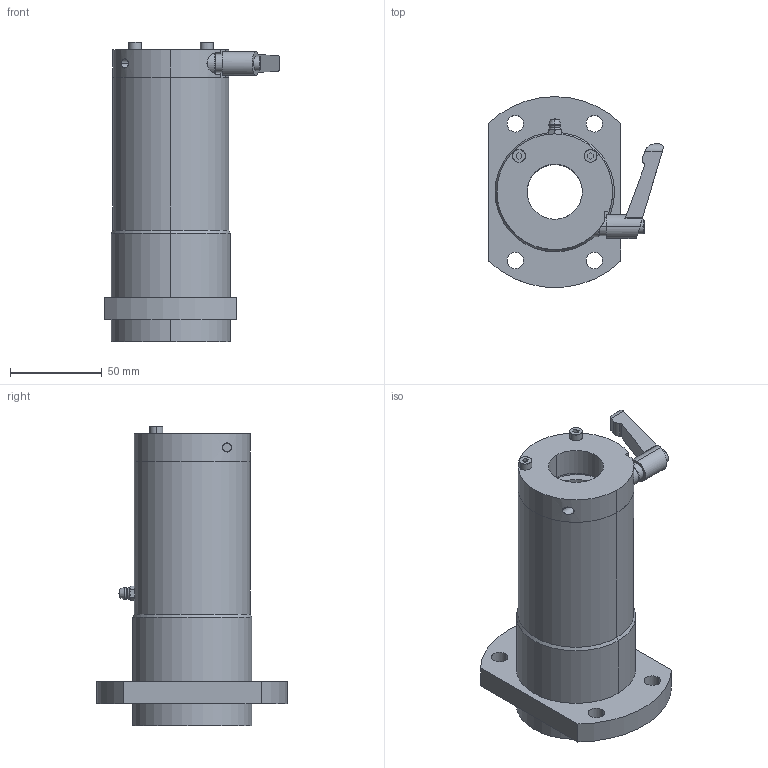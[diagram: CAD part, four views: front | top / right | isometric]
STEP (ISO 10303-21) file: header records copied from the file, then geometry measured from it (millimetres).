
FILE_DESCRIPTION (( 'STEP AP214' ), '1' );
FILE_NAME ('LFWB30-C.STEP', '2023-06-27T02:30:07', ( '' ), ( '' ), 'SwSTEP 2.0', 'SolidWorks 2019', '' );
FILE_SCHEMA (( 'AUTOMOTIVE_DESIGN' ));
Length unit declared in the file: millimetre
Products named in the file (3): LFWB30-C; LFWB30; “ÁSCK3015CO-S4.5
Assembly tree (2 placements, depth 2):
  LFWB30-C
    LFWB30
    “ÁSCK3015CO-S4.5
Bounding box: 95.1 x 103.81 x 163 mm (x, y, z)
Volume: 432029.6 mm3; surface area: 80016.2 mm2
Topology: 3 solids, 9 shells, 237 faces, 598 edges, 374 vertices
Faces by surface type: cylinder 86, plane 70, bspline 47, cone 22, torus 8, sphere 4
Entity records: 10424 total; most frequent: CARTESIAN_POINT 2291, DIRECTION 1232, ORIENTED_EDGE 1180, EDGE_CURVE 590, AXIS2_PLACEMENT_3D 513, VERTEX_POINT 370, CIRCLE 318, EDGE_LOOP 284
